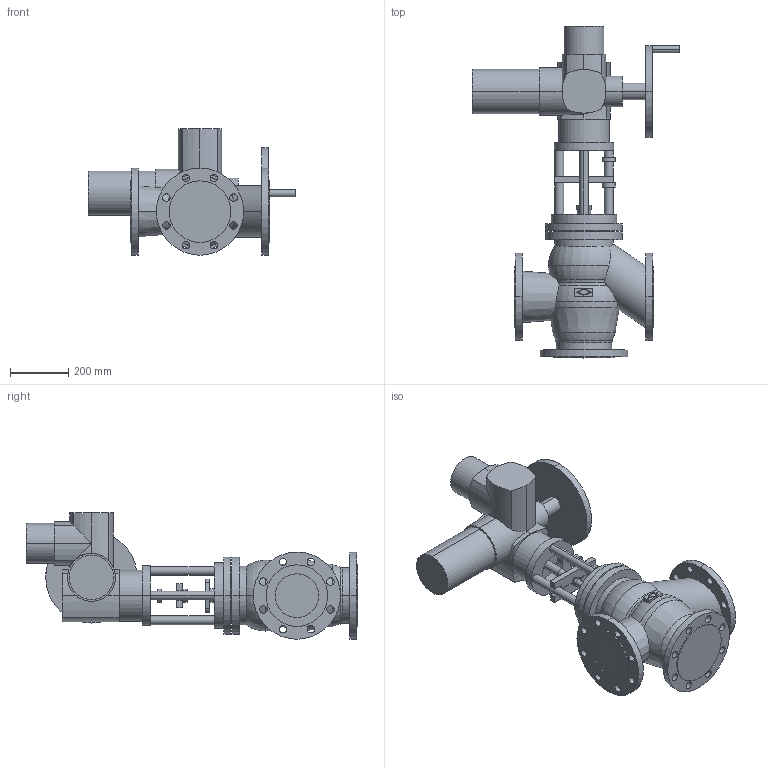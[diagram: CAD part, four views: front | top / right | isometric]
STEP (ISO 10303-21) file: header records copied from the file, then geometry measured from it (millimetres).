
FILE_DESCRIPTION(('OneSpaceDesigner STEP Export'),'2;1');
FILE_NAME('c000003182.stp','2007-01-24T11:03:52',(''),(''),'OneSpace Designer STEP processor for AP214 (Solid Model)','OneSpace Designer 14.00B 27-May-2006 (C) CoCreate Software GmbH','');
FILE_SCHEMA(('AUTOMOTIVE_DESIGN { 1 0 10303 214 1 1 1 1 }'));
Length unit declared in the file: millimetre
Products named in the file (2): 1; 2
Bounding box: 713 x 1142 x 435 mm (x, y, z)
Volume: 54132883.4 mm3; surface area: 1962587.7 mm2
Topology: 2 solids, 2 shells, 283 faces, 700 edges, 450 vertices
Faces by surface type: cylinder 157, plane 102, torus 16, cone 8
Entity records: 7943 total; most frequent: CARTESIAN_POINT 1822, ORIENTED_EDGE 1400, DIRECTION 1080, EDGE_CURVE 700, VERTEX_POINT 450, AXIS2_PLACEMENT_3D 388, EDGE_LOOP 368, VECTOR 304
